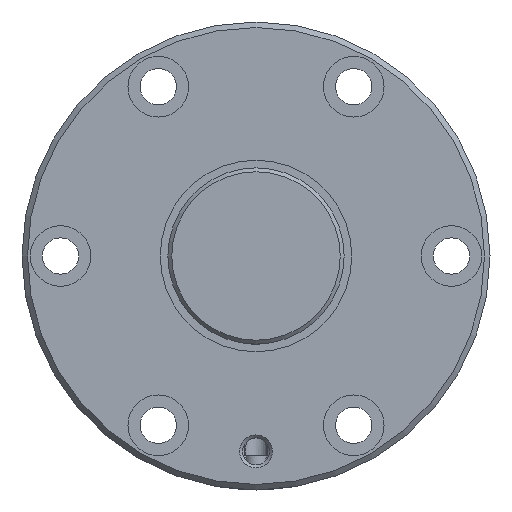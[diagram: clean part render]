
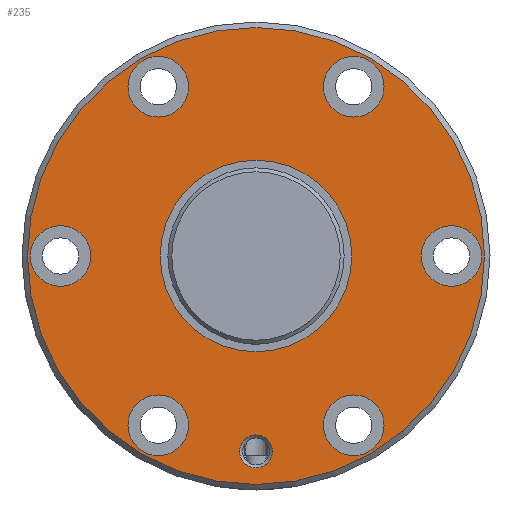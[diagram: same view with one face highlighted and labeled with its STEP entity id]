
A CAD part, left-side view. The second image highlights one B-rep face of the part: STEP entity #235.
In plain terms, the highlighted planar face has unit normal (-1, 0, 0).
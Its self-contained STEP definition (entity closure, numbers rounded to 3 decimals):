
#235 = ADVANCED_FACE( '', ( #432, #433, #434, #435, #436, #437, #438, #439, #440 ), #441, .T. );
#432 = FACE_BOUND( '', #699, .T. );
#433 = FACE_BOUND( '', #700, .T. );
#434 = FACE_BOUND( '', #701, .T. );
#435 = FACE_BOUND( '', #702, .T. );
#436 = FACE_BOUND( '', #703, .T. );
#437 = FACE_BOUND( '', #704, .T. );
#438 = FACE_BOUND( '', #705, .T. );
#439 = FACE_BOUND( '', #706, .T. );
#440 = FACE_OUTER_BOUND( '', #707, .T. );
#441 = PLANE( '', #708 );
#699 = EDGE_LOOP( '', ( #1302 ) );
#700 = EDGE_LOOP( '', ( #1303 ) );
#701 = EDGE_LOOP( '', ( #1304 ) );
#702 = EDGE_LOOP( '', ( #1305 ) );
#703 = EDGE_LOOP( '', ( #1306 ) );
#704 = EDGE_LOOP( '', ( #1307 ) );
#705 = EDGE_LOOP( '', ( #1308 ) );
#706 = EDGE_LOOP( '', ( #1309 ) );
#707 = EDGE_LOOP( '', ( #1310 ) );
#708 = AXIS2_PLACEMENT_3D( '', #1311, #1312, #1313 );
#1302 = ORIENTED_EDGE( '', *, *, #1674, .T. );
#1303 = ORIENTED_EDGE( '', *, *, #1675, .T. );
#1304 = ORIENTED_EDGE( '', *, *, #1529, .T. );
#1305 = ORIENTED_EDGE( '', *, *, #1676, .T. );
#1306 = ORIENTED_EDGE( '', *, *, #1677, .T. );
#1307 = ORIENTED_EDGE( '', *, *, #1678, .T. );
#1308 = ORIENTED_EDGE( '', *, *, #1679, .T. );
#1309 = ORIENTED_EDGE( '', *, *, #1680, .T. );
#1310 = ORIENTED_EDGE( '', *, *, #1681, .F. );
#1311 = CARTESIAN_POINT( '', ( 0., 41.5, 0. ) );
#1312 = DIRECTION( '', ( -1., 0., 0. ) );
#1313 = DIRECTION( '', ( 0., 0., 1. ) );
#1529 = EDGE_CURVE( '', #1755, #1755, #1756, .T. );
#1674 = EDGE_CURVE( '', #1996, #1996, #1997, .T. );
#1675 = EDGE_CURVE( '', #1998, #1998, #1999, .F. );
#1676 = EDGE_CURVE( '', #2000, #2000, #2001, .T. );
#1677 = EDGE_CURVE( '', #2002, #2002, #2003, .T. );
#1678 = EDGE_CURVE( '', #2004, #2004, #2005, .T. );
#1679 = EDGE_CURVE( '', #2006, #2006, #2007, .T. );
#1680 = EDGE_CURVE( '', #2008, #2008, #2009, .T. );
#1681 = EDGE_CURVE( '', #2010, #2010, #2011, .T. );
#1755 = VERTEX_POINT( '', #2216 );
#1756 = CIRCLE( '', #2217, 3. );
#1996 = VERTEX_POINT( '', #3058 );
#1997 = CIRCLE( '', #3059, 17.4 );
#1998 = VERTEX_POINT( '', #3060 );
#1999 = CIRCLE( '', #3061, 5.5 );
#2000 = VERTEX_POINT( '', #3062 );
#2001 = CIRCLE( '', #3063, 5.5 );
#2002 = VERTEX_POINT( '', #3064 );
#2003 = CIRCLE( '', #3065, 5.5 );
#2004 = VERTEX_POINT( '', #3066 );
#2005 = CIRCLE( '', #3067, 5.5 );
#2006 = VERTEX_POINT( '', #3068 );
#2007 = CIRCLE( '', #3069, 5.5 );
#2008 = VERTEX_POINT( '', #3070 );
#2009 = CIRCLE( '', #3071, 5.5 );
#2010 = VERTEX_POINT( '', #3072 );
#2011 = CIRCLE( '', #3073, 41.5 );
#2216 = CARTESIAN_POINT( '', ( 0., 0., -38.5 ) );
#2217 = AXIS2_PLACEMENT_3D( '', #3177, #3178, #3179 );
#3058 = CARTESIAN_POINT( '', ( 0., 0., -17.4 ) );
#3059 = AXIS2_PLACEMENT_3D( '', #3441, #3442, #3443 );
#3060 = CARTESIAN_POINT( '', ( 0., 35.5, 5.5 ) );
#3061 = AXIS2_PLACEMENT_3D( '', #3444, #3445, #3446 );
#3062 = CARTESIAN_POINT( '', ( 0., 17.75, 25.244 ) );
#3063 = AXIS2_PLACEMENT_3D( '', #3447, #3448, #3449 );
#3064 = CARTESIAN_POINT( '', ( 0., -17.75, -36.244 ) );
#3065 = AXIS2_PLACEMENT_3D( '', #3450, #3451, #3452 );
#3066 = CARTESIAN_POINT( '', ( 0., -17.75, 25.244 ) );
#3067 = AXIS2_PLACEMENT_3D( '', #3453, #3454, #3455 );
#3068 = CARTESIAN_POINT( '', ( 0., 17.75, -36.244 ) );
#3069 = AXIS2_PLACEMENT_3D( '', #3456, #3457, #3458 );
#3070 = CARTESIAN_POINT( '', ( 0., -35.5, -5.5 ) );
#3071 = AXIS2_PLACEMENT_3D( '', #3459, #3460, #3461 );
#3072 = CARTESIAN_POINT( '', ( 0., 0., -41.5 ) );
#3073 = AXIS2_PLACEMENT_3D( '', #3462, #3463, #3464 );
#3177 = CARTESIAN_POINT( '', ( 0., 0., -35.5 ) );
#3178 = DIRECTION( '', ( 1., 0., 0. ) );
#3179 = DIRECTION( '', ( 0., 0., -1. ) );
#3441 = CARTESIAN_POINT( '', ( 0., 0., 0. ) );
#3442 = DIRECTION( '', ( 1., 0., 0. ) );
#3443 = DIRECTION( '', ( 0., 0., -1. ) );
#3444 = CARTESIAN_POINT( '', ( 0., 35.5, 0. ) );
#3445 = DIRECTION( '', ( -1., 0., 0. ) );
#3446 = DIRECTION( '', ( 0., 0., 1. ) );
#3447 = CARTESIAN_POINT( '', ( 0., 17.75, 30.744 ) );
#3448 = DIRECTION( '', ( 1., 0., 0. ) );
#3449 = DIRECTION( '', ( 0., 0., -1. ) );
#3450 = CARTESIAN_POINT( '', ( 0., -17.75, -30.744 ) );
#3451 = DIRECTION( '', ( 1., 0., 0. ) );
#3452 = DIRECTION( '', ( 0., 0., -1. ) );
#3453 = CARTESIAN_POINT( '', ( 0., -17.75, 30.744 ) );
#3454 = DIRECTION( '', ( 1., 0., 0. ) );
#3455 = DIRECTION( '', ( 0., 0., -1. ) );
#3456 = CARTESIAN_POINT( '', ( 0., 17.75, -30.744 ) );
#3457 = DIRECTION( '', ( 1., 0., 0. ) );
#3458 = DIRECTION( '', ( 0., 0., -1. ) );
#3459 = CARTESIAN_POINT( '', ( 0., -35.5, 0. ) );
#3460 = DIRECTION( '', ( 1., 0., 0. ) );
#3461 = DIRECTION( '', ( 0., 0., -1. ) );
#3462 = CARTESIAN_POINT( '', ( 0., 0., 0. ) );
#3463 = DIRECTION( '', ( 1., 0., 0. ) );
#3464 = DIRECTION( '', ( 0., 0., -1. ) );
